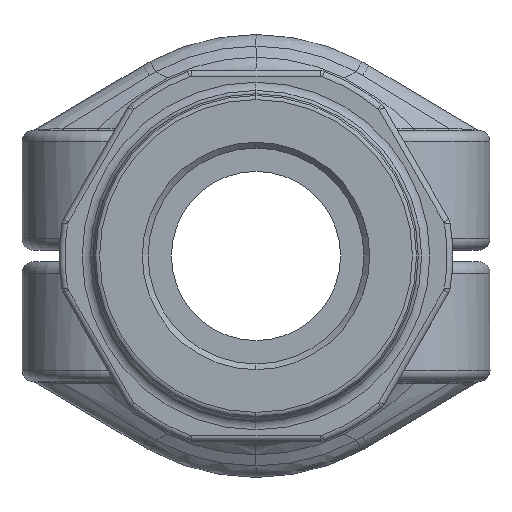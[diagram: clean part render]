
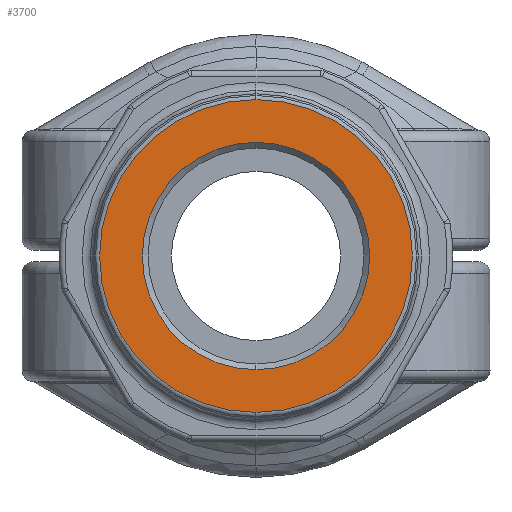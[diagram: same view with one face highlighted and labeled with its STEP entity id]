
A CAD part, left-side view. The second image highlights one B-rep face of the part: STEP entity #3700.
In plain terms, the highlighted planar face has unit normal (-1, 0, 0).
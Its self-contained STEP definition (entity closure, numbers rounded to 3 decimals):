
#1491=CARTESIAN_POINT('',(-3.045,0.,0.));
#1492=DIRECTION('',(1.,0.,0.));
#1493=DIRECTION('',(0.,0.,1.));
#1494=AXIS2_PLACEMENT_3D('',#1491,#1492,#1493);
#1499=CARTESIAN_POINT('',(-3.045,0.,0.));
#1500=DIRECTION('',(1.,0.,0.));
#1501=DIRECTION('',(0.,0.,-1.));
#1502=AXIS2_PLACEMENT_3D('',#1499,#1500,#1501);
#1507=CARTESIAN_POINT('',(-3.045,0.,0.));
#1508=DIRECTION('',(-1.,0.,0.));
#1509=DIRECTION('',(0.,0.,1.));
#1510=AXIS2_PLACEMENT_3D('',#1507,#1508,#1509);
#1515=CARTESIAN_POINT('',(-3.045,0.,0.));
#1516=DIRECTION('',(-1.,0.,0.));
#1517=DIRECTION('',(0.,0.,-1.));
#1518=AXIS2_PLACEMENT_3D('',#1515,#1516,#1517);
#1989=CARTESIAN_POINT('',(-3.045,0.,9.961));
#1990=VERTEX_POINT('',#1989);
#1991=CARTESIAN_POINT('',(-3.045,0.,-9.961));
#1992=VERTEX_POINT('',#1991);
#1993=CARTESIAN_POINT('',(-3.045,0.,13.7));
#1994=CARTESIAN_POINT('',(-3.045,0.,-13.7));
#1995=VERTEX_POINT('',#1993);
#1996=VERTEX_POINT('',#1994);
#3684=CARTESIAN_POINT('',(-3.045,15.223,0.));
#3685=DIRECTION('',(1.,0.,0.));
#3686=DIRECTION('',(0.,0.,-1.));
#3687=AXIS2_PLACEMENT_3D('',#3684,#3685,#3686);
#3688=PLANE('',#3687);
#3689=ORIENTED_EDGE('',*,*,#3674,.T.);
#3691=ORIENTED_EDGE('',*,*,#3690,.T.);
#3692=EDGE_LOOP('',(#3689,#3691));
#3693=FACE_OUTER_BOUND('',#3692,.F.);
#3695=ORIENTED_EDGE('',*,*,#3694,.T.);
#3697=ORIENTED_EDGE('',*,*,#3696,.T.);
#3698=EDGE_LOOP('',(#3695,#3697));
#3699=FACE_BOUND('',#3698,.F.);
#1495=CIRCLE('',#1494,13.7);
#1503=CIRCLE('',#1502,13.7);
#1511=CIRCLE('',#1510,9.961);
#1519=CIRCLE('',#1518,9.961);
#3674=EDGE_CURVE('',#1995,#1996,#1495,.T.);
#3690=EDGE_CURVE('',#1996,#1995,#1503,.T.);
#3694=EDGE_CURVE('',#1990,#1992,#1511,.T.);
#3696=EDGE_CURVE('',#1992,#1990,#1519,.T.);
#3700=ADVANCED_FACE('',(#3693,#3699),#3688,.F.);
